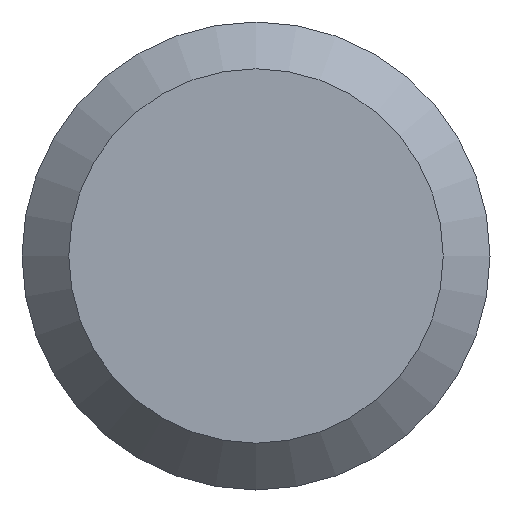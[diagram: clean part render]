
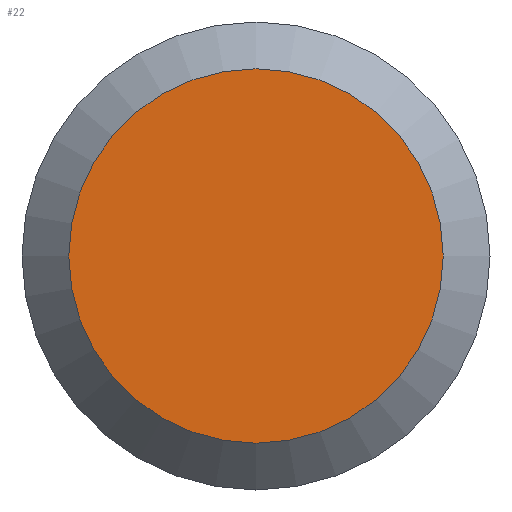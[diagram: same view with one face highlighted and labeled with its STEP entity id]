
A CAD part, left-side view. The second image highlights one B-rep face of the part: STEP entity #22.
In plain terms, the highlighted planar face has unit normal (-1, 0, 0).
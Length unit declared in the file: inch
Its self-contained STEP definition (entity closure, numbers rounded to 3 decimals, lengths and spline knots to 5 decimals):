
#6 = EDGE_LOOP ( 'NONE', ( #16 ) ) ;
#16 = ORIENTED_EDGE ( 'NONE', *, *, #183, .T. ) ;
#22 = ADVANCED_FACE ( 'NONE', ( #158 ), #229, .F. ) ;
#63 = DIRECTION ( 'NONE',  ( 0., 0., -1. ) ) ;
#102 = DIRECTION ( 'NONE',  ( 0., 0., -1. ) ) ;
#116 = VERTEX_POINT ( 'NONE', #230 ) ;
#158 = FACE_OUTER_BOUND ( 'NONE', #6, .T. ) ;
#168 = AXIS2_PLACEMENT_3D ( 'NONE', #249, #232, #102 ) ;
#172 = DIRECTION ( 'NONE',  ( 1., 0., 0. ) ) ;
#183 = EDGE_CURVE ( 'NONE', #116, #116, #228, .T. ) ;
#189 = CARTESIAN_POINT ( 'NONE',  ( 0., 0.166, 0. ) ) ;
#228 = CIRCLE ( 'NONE', #168, 0.1328 ) ;
#229 = PLANE ( 'NONE',  #235 ) ;
#230 = CARTESIAN_POINT ( 'NONE',  ( 0., 0., -0.1328 ) ) ;
#232 = DIRECTION ( 'NONE',  ( -1., 0., 0. ) ) ;
#235 = AXIS2_PLACEMENT_3D ( 'NONE', #189, #172, #63 ) ;
#249 = CARTESIAN_POINT ( 'NONE',  ( 0., 0., 0. ) ) ;
